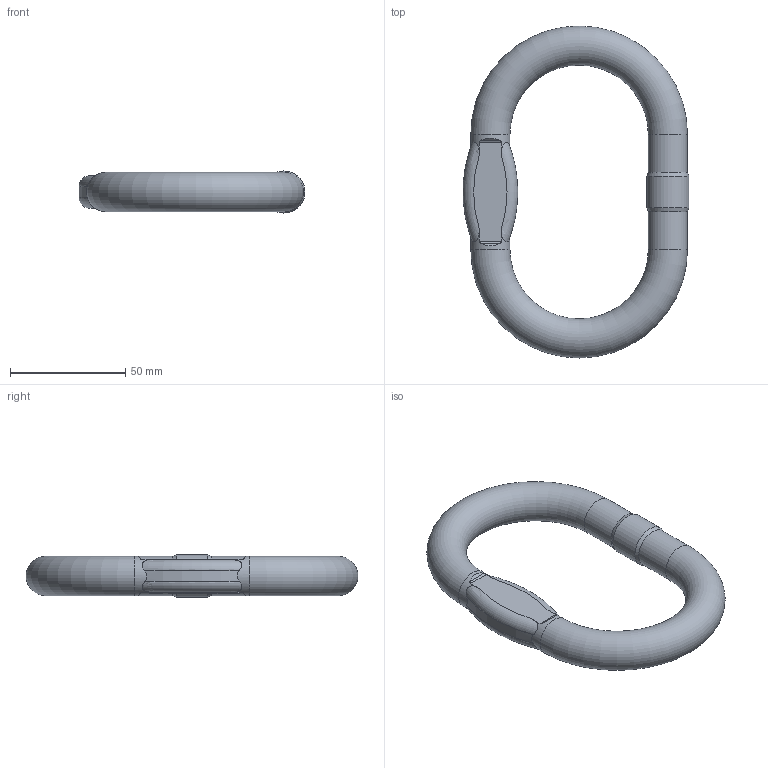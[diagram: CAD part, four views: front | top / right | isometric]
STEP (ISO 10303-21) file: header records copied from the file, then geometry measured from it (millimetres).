
FILE_DESCRIPTION(/* description */ (''),/* implementation_level */ '2;1');
FILE_NAME(/* name */ 'AWP_16.stp',/* time_stamp */ '2018-02-23T10:27:31+01:00',/* author */ (''),/* organization */ (''),/* preprocessor_version */ 'ST-DEVELOPER v16',/* originating_system */ 'SIEMENS PLM Software NX 11.0',/* authorisation */ '');
FILE_SCHEMA (('AUTOMOTIVE_DESIGN { 1 0 10303 214 3 1 1 1 }'));
Length unit declared in the file: millimetre
Products named in the file (1): kch1114C08Dlj8e
Bounding box: 97.99 x 143.96 x 18.27 mm (x, y, z)
Volume: 80263.4 mm3; surface area: 18842.7 mm2
Topology: 1 solids, 1 shells, 146 faces, 397 edges, 264 vertices
Faces by surface type: plane 73, extrusion 49, cylinder 16, torus 6, cone 2
Full cylindrical faces by diameter (mm): 17 x4, 18.275 x1
Entity records: 5143 total; most frequent: CARTESIAN_POINT 1864, ORIENTED_EDGE 768, DIRECTION 451, EDGE_CURVE 384, B_SPLINE_CURVE_WITH_KNOTS 261, VERTEX_POINT 260, VECTOR 187, EDGE_LOOP 168
